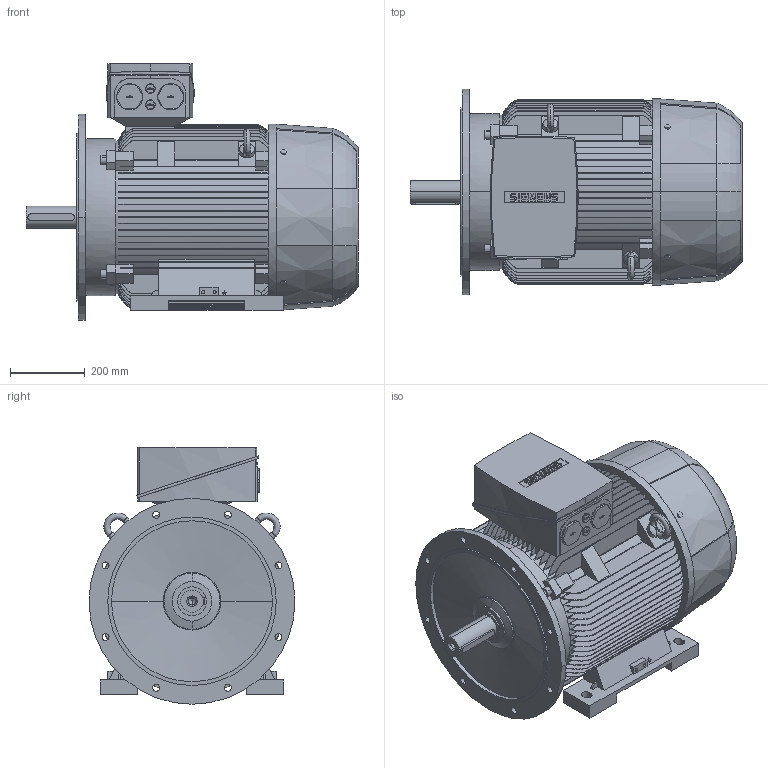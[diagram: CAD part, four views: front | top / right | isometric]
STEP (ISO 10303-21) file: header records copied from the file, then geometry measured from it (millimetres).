
FILE_DESCRIPTION(('STEP AP214'),'1');
FILE_NAME('cctmp_B9EAA34B-1355-4D74-A008-75CF9945BFD1_2021_11_16_12_37_11_491..stp','2021-11-16T11:37:12',('SIEMENS A&D'),('CADClick - www.CADClick.com'),'Spatial InterOp 3D',' ','unknown authorization');
FILE_SCHEMA(('AUTOMOTIVE_DESIGN'));
Length unit declared in the file: millimetre
Products named in the file (1): 1
Bounding box: 887 x 550 x 685 mm (x, y, z)
Volume: 128585903.1 mm3; surface area: 4493250.7 mm2
Topology: 7 solids, 7 shells, 1109 faces, 3122 edges, 2065 vertices
Faces by surface type: plane 648, cylinder 271, torus 166, cone 24
Entity records: 56902 total; most frequent: CARTESIAN_POINT 19818, ORIENTED_EDGE 6240, DIRECTION 5397, EDGE_CURVE 3120, VERTEX_POINT 2065, LINE 1831, VECTOR 1831, AXIS2_PLACEMENT_3D 1783
